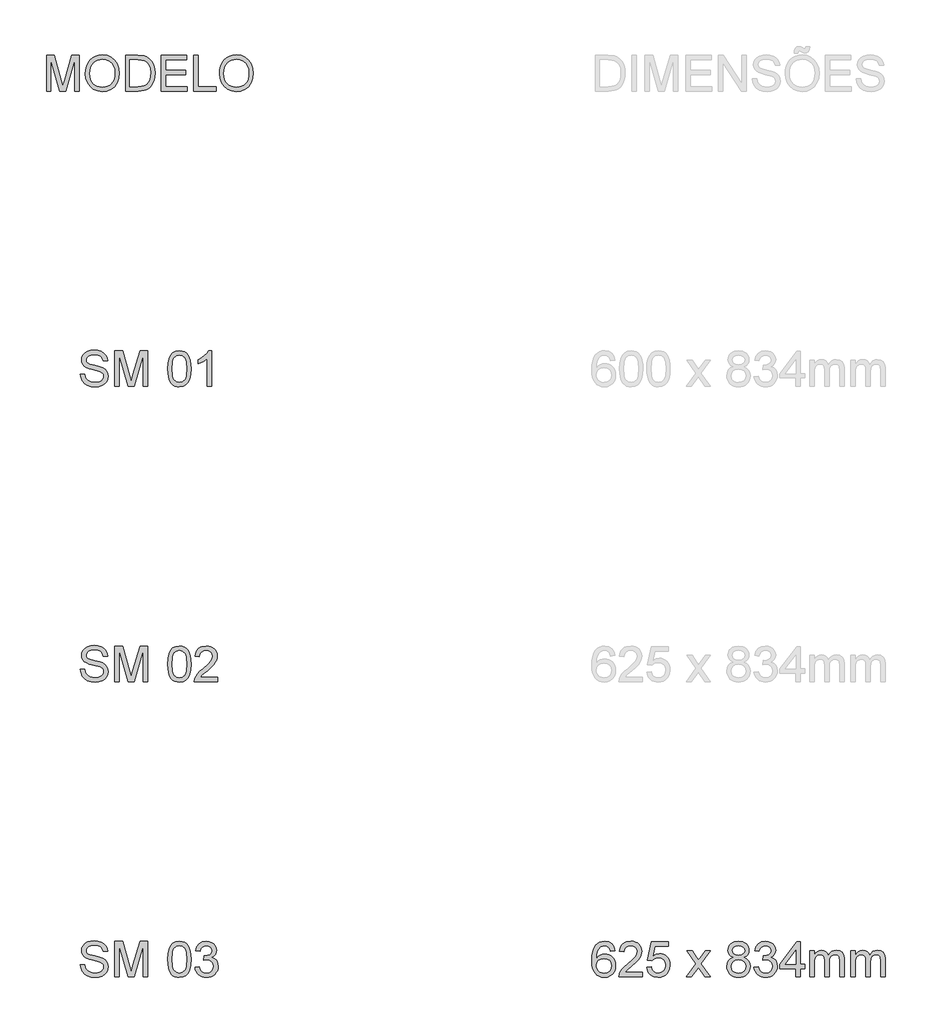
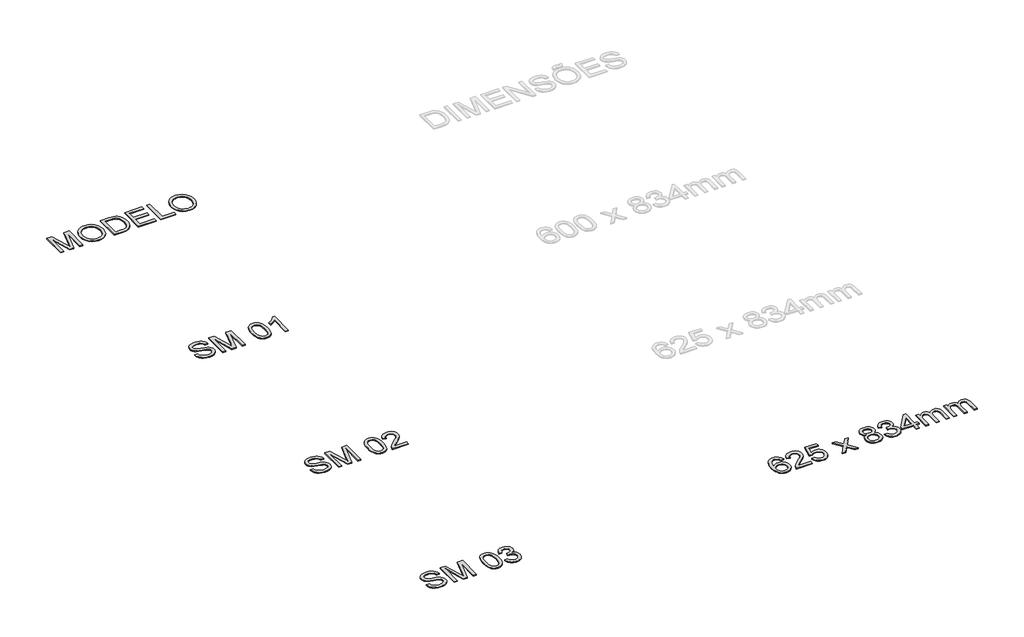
# One storey, part 63 of 67: 5 proxies.
"""IFC4 building model written with IfcOpenShell, lengths in millimetres."""

from ifc_helpers import new_model, si_unit, origin, origin_with_axes, place, context, project, spatial, polyline, outline, extrude, element, save

model = new_model("IFC4")

# Units and contexts
model_context = context("Model", 3, world=origin())
ifc_project = project(units=[si_unit("LENGTHUNIT", "METRE", prefix="MILLI")], contexts=[model_context])

# Site, building, storey
site = spatial("IfcSite", under=ifc_project)
building = spatial("IfcBuilding", under=site)
storey = spatial("IfcBuildingStorey", under=building, Name="Marelli - Linha COLAB - Planta Baixa", Elevation=0.0)

# Proxies
placement = place(None, origin())
element("IfcBuildingElementProxy", 1, Name="300mm Arial", ObjectType="300mm Arial", at=placement, inside=storey, context=model_context, shape_type="SweptSolid", body=[
    extrude(outline(polyline([(-150.5235972, 1440.7514882), (-188.1947135, 1436.0425987), (-194.2647664, 1454.7126099), (-202.4685349, 1467.4597211), (-219.5566536, 1479.2135508), (-240.2132276, 1483.1314941), (-257.7244106, 1480.8506257), (-274.205524, 1474.0080206), (-288.3597837, 1459.5962434), (-299.9204754, 1439.7582068), (-307.7287708, 1411.6980077), (-310.6258415, 1372.6197427), (-295.5150886, 1390.2504873), (-277.4060973, 1402.6757017), (-257.3105434, 1410.0425387), (-236.2401021, 1412.498151), (-218.1403079, 1410.8196894), (-201.4384653, 1405.7843046), (-186.1345743, 1397.3919966), (-172.2286349, 1385.6427654), (-160.6725417, 1371.2355867), (-152.4181895, 1354.8694365), (-147.4655781, 1336.5443146), (-145.8147077, 1316.2602211), (-148.9233105, 1289.2852738), (-158.2491191, 1264.2784951), (-173.0195812, 1243.0700981), (-192.4621447, 1227.4902956), (-215.6938927, 1217.9161667), (-241.8319084, 1214.7247904), (-264.288805, 1216.8401119), (-284.5705992, 1223.1860763), (-302.6772911, 1233.7626836), (-318.6088808, 1248.5699339), (-331.5974145, 1268.2332266), (-340.8749386, 1293.377961), (-346.441453, 1324.0041371), (-348.2969578, 1360.1117549), (-346.2368186, 1400.5925699), (-340.0564011, 1435.1412878), (-329.7557053, 1463.7579085), (-315.334731, 1486.442432), (-299.7043448, 1501.4750101), (-281.581558, 1512.2125658), (-260.9663707, 1518.6550992), (-237.8587829, 1520.8026104), (-204.8045856, 1515.4867156), (-178.335476, 1499.5390311), (-159.7942235, 1474.2103557), (-150.5235972, 1440.7514882)]), holes=[polyline([(-310.6258415, 1316.8488323), (-308.4461407, 1300.1561867), (-301.9070382, 1284.2176993), (-291.7534952, 1270.514095), (-278.7304725, 1260.5260988), (-263.0127143, 1254.4284547), (-244.7749644, 1252.3959067), (-219.9153385, 1256.6081555), (-200.3716076, 1269.2449021), (-187.7072699, 1289.1105298), (-183.485824, 1315.0094223), (-187.6520876, 1339.8690481), (-200.1508784, 1358.8241679), (-220.0257031, 1370.826318), (-246.3200687, 1374.8270347), (-271.1429064, 1370.826318), (-291.900648, 1358.8241679), (-305.9445431, 1340.3289006), (-310.6258415, 1316.8488323)])]), origin_with_axes(), (0.0, 0.0, 1.0), 10.0),
    extrude(outline(polyline([(80.2119902, 1257.1047962), (80.2119902, 1219.4336799), (-117.5613704, 1219.4336799), (-113.5146685, 1245.4061488), (-104.2256481, 1265.7040379), (-90.6324084, 1285.3949217), (-70.9691157, 1306.0055104), (-43.4699366, 1329.0625145), (-2.8189761, 1365.1701323), (21.5716001, 1391.8231829), (33.7668883, 1413.4546442), (37.8319843, 1434.4974943), (33.9968145, 1453.3606436), (22.4913051, 1469.0416137), (4.8053782, 1479.609024), (-17.5710441, 1483.1314941), (-41.0695066, 1479.6917974), (-59.3256506, 1469.3727075), (-71.1070715, 1452.9835646), (-75.1813646, 1431.3337092), (-112.8524809, 1436.0425987), (-103.7198104, 1472.4813103), (-95.1734518, 1487.0172476), (-83.9737443, 1499.0975727), (-70.3782053, 1508.5935267), (-54.6443522, 1515.376351), (-16.7617038, 1520.8026104), (3.42812, 1519.2942942), (21.3968562, 1514.7693457), (37.1445048, 1507.2277648), (50.671066, 1496.6695515), (61.5350811, 1483.8764551), (69.295092, 1469.6302249), (73.9510985, 1453.9308607), (75.5031006, 1436.7783627), (73.8292376, 1418.761342), (68.8076483, 1401.057021), (59.895707, 1383.0491973), (46.5507876, 1364.1216686), (25.2780112, 1341.5245171), (-7.4175011, 1312.5078247), (-50.7540001, 1276.2714482), (-67.7501483, 1257.1047962), (80.2119902, 1257.1047962)])), origin_with_axes(), (0.0, 0.0, 1.0), 10.0),
    extrude(outline(polyline([(117.8831065, 1299.4848021), (155.5542228, 1304.1936916), (162.4704043, 1281.578146), (174.5369337, 1265.3821411), (191.6986288, 1255.6424653), (213.9003072, 1252.3959067), (240.9028457, 1256.9116582), (261.1363554, 1270.4589127), (273.7731019, 1291.4741716), (277.9853508, 1318.3939366), (274.0398164, 1343.7410061), (262.2032132, 1363.1283872), (242.3835707, 1375.43404), (214.4889184, 1379.5359242), (196.2143803, 1377.8988494), (181.416327, 1372.9876247), (160.2631123, 1355.9914765), (122.591996, 1360.7003661), (155.5542228, 1516.0937208), (301.5297985, 1516.0937208), (301.5297985, 1478.4226045), (186.014852, 1478.4226045), (169.9016206, 1395.4284264), (196.8121885, 1411.762387), (225.0103435, 1417.2070405), (243.3561587, 1415.5193819), (260.2074534, 1410.4564059), (275.5642274, 1402.0181127), (289.4264808, 1390.2045021), (300.9020998, 1375.7375426), (309.0989705, 1359.3392027), (314.0170929, 1341.0094823), (315.6564671, 1320.7483814), (309.7519611, 1283.0772651), (302.3713285, 1266.283452), (292.038443, 1250.8508023), (276.3850641, 1235.0456721), (258.119723, 1223.7562934), (237.2424198, 1216.9826661), (213.7531544, 1214.7247904), (176.7534228, 1220.5281289), (161.074752, 1227.782302), (147.2768779, 1237.9381443), (135.7966604, 1250.4898181), (127.0709593, 1264.9314857), (117.8831065, 1299.4848021)])), origin_with_axes(), (0.0, 0.0, 1.0), 10.0),
    extrude(outline(polyline([(452.2142637, 1219.4336799), (532.7068442, 1330.6811953), (456.9231532, 1440.7514882), (502.246215, 1440.7514882), (538.8136854, 1387.7764809), (555.8834099, 1362.7605053), (570.6722661, 1383.2147442), (612.316508, 1440.7514882), (657.6395698, 1440.7514882), (578.029906, 1330.6811953), (654.6965138, 1219.4336799), (609.373452, 1219.4336799), (563.2410498, 1286.3146267), (554.7797639, 1298.5283089), (497.5373255, 1219.4336799), (452.2142637, 1219.4336799)])), origin_with_axes(), (0.0, 0.0, 1.0), 10.0),
    extrude(outline(polyline([(850.8511937, 1385.4220362), (830.6820633, 1395.35485), (816.5278035, 1408.819331), (808.1676852, 1425.5395677), (805.3809791, 1445.2396486), (806.8984923, 1460.6033204), (811.451032, 1474.6886023), (819.0385981, 1487.4954942), (829.6611907, 1499.0239963), (842.8083735, 1508.5521399), (857.9697103, 1515.3579569), (894.3348455, 1520.8026104), (930.9207099, 1515.2291982), (946.2475935, 1508.2624329), (959.5971114, 1498.5089615), (970.4128421, 1486.7551317), (978.138364, 1473.7872914), (982.7736771, 1459.6054405), (984.3187815, 1444.209579), (981.5688636, 1425.1440946), (973.3191099, 1408.7089665), (959.4775498, 1395.3272589), (939.9522129, 1385.4220362), (963.1379756, 1373.4750684), (980.0145622, 1355.8811119), (990.306061, 1333.4862955), (993.7365606, 1307.1367476), (992.0351064, 1288.3471747), (986.9307437, 1271.1211003), (978.4234725, 1255.4585243), (966.5132929, 1241.3594468), (951.8256043, 1229.7067846), (934.985806, 1221.3834545), (915.993898, 1216.3894564), (894.8498803, 1214.7247904), (873.7058626, 1216.3963542), (854.7139546, 1221.4110457), (837.8741563, 1229.7688647), (823.1864676, 1241.4698114), (811.276288, 1255.6677572), (802.7690169, 1271.5165734), (797.6646542, 1289.0162601), (795.9632, 1308.1668172), (799.5316553, 1335.5372376), (810.2370214, 1358.0516157), (827.5274752, 1374.9373993), (850.8511937, 1385.4220362)]), holes=[polyline([(843.0520954, 1444.1360026), (846.3906245, 1427.6916774), (856.4062118, 1414.5582902), (872.8045517, 1405.9498515), (895.2913387, 1403.0803719), (917.2538938, 1405.9314574), (933.4039134, 1414.4847138), (943.3367273, 1427.1766426), (946.6476652, 1442.4437454), (943.2263627, 1458.2902624), (932.962455, 1471.3960584), (916.5917062, 1480.1976352), (894.8498803, 1483.1314941), (872.9700986, 1480.2620145), (856.626941, 1471.6535758), (846.4458068, 1459.0352234), (843.0520954, 1444.1360026)]), polyline([(833.6343163, 1309.4911924), (839.9250984, 1281.1274905), (848.6347046, 1268.9597935), (862.1819591, 1259.9006994), (878.4055551, 1254.2721049), (895.1441859, 1252.3959067), (920.7855609, 1256.3414411), (940.0257893, 1268.1780443), (952.0555305, 1286.1030945), (956.0654443, 1308.31397), (951.9267718, 1330.9019245), (939.5107545, 1349.2224478), (919.8290678, 1361.3625537), (893.8933871, 1365.4092556), (868.610697, 1361.417736), (849.5636067, 1349.443177), (837.6166389, 1331.4721416), (833.6343163, 1309.4911924)])]), origin_with_axes(), (0.0, 0.0, 1.0), 10.0),
    extrude(outline(polyline([(1026.6987874, 1299.4848021), (1064.3699037, 1304.1936916), (1072.8035984, 1280.5204852), (1085.1552364, 1264.5360125), (1102.0318229, 1255.4309332), (1124.0403633, 1252.3959067), (1149.8656793, 1256.5713673), (1169.8048835, 1269.0977493), (1182.5519946, 1287.7861546), (1186.8010317, 1310.4476855), (1182.5887828, 1331.9595852), (1169.9520363, 1349.4063888), (1150.8221725, 1360.9670805), (1127.130572, 1364.8206444), (1100.7166448, 1360.7003661), (1104.9104995, 1398.3714824), (1110.9437643, 1397.930024), (1133.5133247, 1400.6339567), (1153.6916521, 1408.7457546), (1167.9286853, 1422.4677531), (1172.674363, 1442.002287), (1169.2346664, 1458.2718683), (1158.9155764, 1471.4696348), (1143.170227, 1480.2160293), (1123.4517521, 1483.1314941), (1103.696489, 1480.1884381), (1087.5464694, 1471.3592702), (1075.7558514, 1456.6439904), (1069.0787932, 1436.0425987), (1031.4076769, 1440.7514882), (1042.4993191, 1474.5782377), (1062.2361881, 1499.8333367), (1089.2387265, 1515.5602919), (1122.1273769, 1520.8026104), (1145.8097803, 1518.2182394), (1167.5608033, 1510.4651263), (1185.8997208, 1498.23305), (1199.3458077, 1482.2117891), (1207.5955614, 1463.75331), (1210.3454794, 1444.209579), (1207.7335172, 1425.9994202), (1199.8976307, 1409.4815186), (1186.9481845, 1395.4100323), (1168.9955431, 1384.5391194), (1192.576779, 1375.0109757), (1210.0511738, 1358.7873797), (1220.8669044, 1336.7512482), (1224.472148, 1309.7854979), (1222.6695262, 1290.6740283), (1217.2616609, 1273.0708748), (1208.248552, 1256.9760375), (1195.6301995, 1242.3895164), (1180.2573307, 1230.2861988), (1162.9806725, 1221.6409719), (1143.800225, 1216.4538358), (1122.7159881, 1214.7247904), (1103.6597008, 1216.2009169), (1086.2956706, 1220.6292964), (1070.6238976, 1228.0099289), (1056.6443818, 1238.3428145), (1044.9227417, 1251.0209477), (1036.0245959, 1265.4373234), (1029.9499445, 1281.5919415), (1026.6987874, 1299.4848021)])), origin_with_axes(), (0.0, 0.0, 1.0), 10.0),
    extrude(outline(polyline([(1379.8655027, 1219.4336799), (1379.8655027, 1290.067023), (1243.3077061, 1290.067023), (1243.3077061, 1327.7381393), (1389.2832818, 1516.0937208), (1417.536619, 1516.0937208), (1417.536619, 1327.7381393), (1455.2077353, 1327.7381393), (1455.2077353, 1290.067023), (1417.536619, 1290.067023), (1417.536619, 1219.4336799), (1379.8655027, 1219.4336799)]), holes=[polyline([(1379.8655027, 1327.7381393), (1379.8655027, 1444.1360026), (1289.6608375, 1327.7381393), (1379.8655027, 1327.7381393)])]), origin_with_axes(), (0.0, 0.0, 1.0), 10.0),
    extrude(outline(polyline([(1497.5877412, 1219.4336799), (1497.5877412, 1440.7514882), (1535.2588575, 1440.7514882), (1535.2588575, 1404.3311707), (1546.5896229, 1421.0606044), (1561.15775, 1434.1664005), (1578.4665978, 1442.6368835), (1598.0195259, 1445.4603778), (1618.9704055, 1442.5817012), (1635.7642186, 1433.9456713), (1648.3089946, 1420.1225054), (1656.5127631, 1401.6824203), (1670.2439586, 1420.8352767), (1685.9065345, 1434.5158884), (1703.5004909, 1442.7242554), (1723.0258278, 1445.4603778), (1751.3435444, 1440.9078381), (1772.285227, 1427.250219), (1785.2254762, 1404.1196386), (1789.5388926, 1371.1482147), (1789.5388926, 1219.4336799), (1751.8677763, 1219.4336799), (1751.8677763, 1354.961407), (1748.3728973, 1386.4153175), (1743.4616727, 1395.0881356), (1735.7177567, 1401.9031495), (1725.7573516, 1406.3177335), (1714.1966599, 1407.7892615), (1693.7884063, 1404.018471), (1677.150943, 1392.7060997), (1666.086892, 1373.0795952), (1662.398875, 1344.3664055), (1662.398875, 1219.4336799), (1624.7277587, 1219.4336799), (1624.7277587, 1359.1552617), (1622.5480579, 1380.4556292), (1616.0089554, 1395.6491556), (1604.503446, 1404.754235), (1587.4245244, 1407.7892615), (1572.9115797, 1405.7659105), (1559.5390692, 1399.6958576), (1548.5026093, 1389.7262555), (1540.9978166, 1376.0042571), (1536.6935973, 1356.9663638), (1535.2588575, 1331.0490773), (1535.2588575, 1219.4336799), (1497.5877412, 1219.4336799)])), origin_with_axes(), (0.0, 0.0, 1.0), 10.0),
    extrude(outline(polyline([(1846.045567, 1219.4336799), (1846.045567, 1440.7514882), (1883.7166833, 1440.7514882), (1883.7166833, 1404.3311707), (1895.0474488, 1421.0606044), (1909.6155758, 1434.1664005), (1926.9244237, 1442.6368835), (1946.4773517, 1445.4603778), (1967.4282313, 1442.5817012), (1984.2220444, 1433.9456713), (1996.7668204, 1420.1225054), (2004.9705889, 1401.6824203), (2018.7017844, 1420.8352767), (2034.3643603, 1434.5158884), (2051.9583168, 1442.7242554), (2071.4836537, 1445.4603778), (2099.8013702, 1440.9078381), (2120.7430528, 1427.250219), (2133.683302, 1404.1196386), (2137.9967184, 1371.1482147), (2137.9967184, 1219.4336799), (2100.3256021, 1219.4336799), (2100.3256021, 1354.961407), (2096.8307231, 1386.4153175), (2091.9194985, 1395.0881356), (2084.1755825, 1401.9031495), (2074.2151775, 1406.3177335), (2062.6544858, 1407.7892615), (2042.2462321, 1404.018471), (2025.6087689, 1392.7060997), (2014.5447179, 1373.0795952), (2010.8567009, 1344.3664055), (2010.8567009, 1219.4336799), (1973.1855846, 1219.4336799), (1973.1855846, 1359.1552617), (1971.0058837, 1380.4556292), (1964.4667813, 1395.6491556), (1952.9612719, 1404.754235), (1935.8823502, 1407.7892615), (1921.3694055, 1405.7659105), (1907.996895, 1399.6958576), (1896.9604352, 1389.7262555), (1889.4556424, 1376.0042571), (1885.1514231, 1356.9663638), (1883.7166833, 1331.0490773), (1883.7166833, 1219.4336799), (1846.045567, 1219.4336799)])), origin_with_axes(), (0.0, 0.0, 1.0), 10.0),
])
element("IfcBuildingElementProxy", 2, Name="300mm Arial", ObjectType="300mm Arial", at=placement, inside=storey, context=model_context, shape_type="SweptSolid", body=[
    extrude(outline(polyline([(-4966.8769052, 8719.4336799), (-4966.8769052, 9020.8026104), (-4902.0560977, 9020.8026104), (-4840.3990753, 8808.3875464), (-4827.9646638, 8764.0209777), (-4814.5001828, 8812.0663663), (-4753.87323, 9020.8026104), (-4689.0524225, 9020.8026104), (-4689.0524225, 8719.4336799), (-4726.7235388, 8719.4336799), (-4726.7235388, 8983.1314941), (-4802.4336534, 8719.4336799), (-4853.4956743, 8719.4336799), (-4929.2057889, 8983.1314941), (-4929.2057889, 8719.4336799), (-4966.8769052, 8719.4336799)])), origin_with_axes(), (0.0, 0.0, 1.0), 10.0),
    extrude(outline(polyline([(-4637.2546375, 8866.1450196), (-4634.7438429, 8901.4938808), (-4627.2114591, 8932.786843), (-4614.657486, 8960.0239063), (-4597.0819237, 8983.2050705), (-4575.5378343, 9001.7141334), (-4551.0782802, 9014.9348926), (-4523.7032612, 9022.8673481), (-4493.4127774, 9025.5114999), (-4453.883857, 9020.545093), (-4418.4384268, 9005.6458722), (-4389.0078672, 8981.8623012), (-4367.5235587, 8950.2428437), (-4354.3901714, 8912.31421), (-4350.0123757, 8869.6031104), (-4354.6200977, 8826.3217936), (-4368.4432637, 8787.859731), (-4390.7185185, 8756.1850913), (-4420.682507, 8733.266043), (-4455.8244346, 8719.3601035), (-4493.6335066, 8714.7247904), (-4533.7694323, 8719.8475472), (-4569.4171976, 8735.2158175), (-4598.7741808, 8759.4408469), (-4620.0377602, 8791.1338808), (-4632.9504182, 8827.6001836), (-4637.2546375, 8866.1450196)]), holes=[polyline([(-4599.5835212, 8865.7771376), (-4597.7004253, 8840.8025487), (-4592.0511374, 8818.6330599), (-4582.6356576, 8799.2686714), (-4569.4539858, 8782.7093831), (-4553.4304257, 8769.4472372), (-4535.4892806, 8759.9742758), (-4515.6305507, 8754.290499), (-4493.8542358, 8752.3959067), (-4471.7054404, 8754.3088931), (-4451.6121857, 8760.0478522), (-4433.5744716, 8769.6127841), (-4417.5922982, 8783.0036887), (-4404.5071955, 8799.9124649), (-4395.1606936, 8820.0310115), (-4389.5527924, 8843.3593285), (-4387.683492, 8869.897416), (-4390.8840654, 8903.2459188), (-4400.4857854, 8932.0694731), (-4416.2403319, 8955.641512), (-4437.8993843, 8973.2354684), (-4464.0282031, 8984.1891548), (-4493.1920482, 8987.8403836), (-4514.2119057, 8986.0814478), (-4533.71425, 8980.8046405), (-4551.699081, 8972.0099615), (-4568.1663988, 8959.697411), (-4581.9113899, 8943.2737792), (-4591.7292406, 8922.1458563), (-4597.6199511, 8896.3136425), (-4599.5835212, 8865.7771376)])]), origin_with_axes(), (0.0, 0.0, 1.0), 10.0),
    extrude(outline(polyline([(-4298.2145908, 8719.4336799), (-4298.2145908, 9020.8026104), (-4194.2511389, 9020.8026104), (-4140.4667912, 9016.4616028), (-4116.444097, 9008.0922874), (-4096.173799, 8994.9037179), (-4075.333284, 8971.9478814), (-4060.4892455, 8943.4002386), (-4051.6048953, 8909.8126124), (-4048.6434453, 8871.7368259), (-4050.6484021, 8839.3908015), (-4056.6632727, 8810.9259321), (-4065.8235344, 8786.6917057), (-4077.2646645, 8767.0376101), (-4090.4348399, 8751.522187), (-4104.7822377, 8739.7039779), (-4121.254154, 8730.9391893), (-4140.797885, 8724.5840279), (-4189.2479438, 8719.4336799), (-4298.2145908, 8719.4336799)]), holes=[polyline([(-4260.5434745, 8757.1047962), (-4193.8832569, 8757.1047962), (-4166.3105014, 8758.4659596), (-4145.39641, 8762.5494498), (-4129.6142724, 8769.1161434), (-4117.4373783, 8777.9269172), (-4104.3499764, 8794.2332866), (-4094.5183301, 8815.3405161), (-4088.3655037, 8841.3405761), (-4086.3145616, 8872.3254371), (-4090.3336724, 8913.3810678), (-4102.3910047, 8943.6945442), (-4120.2056904, 8964.5166651), (-4141.4968608, 8977.0982294), (-4163.1651104, 8981.6231779), (-4194.9133265, 8983.1314941), (-4260.5434745, 8983.1314941), (-4260.5434745, 8757.1047962)])]), origin_with_axes(), (0.0, 0.0, 1.0), 10.0),
    extrude(outline(polyline([(-3996.8456603, 8719.4336799), (-3996.8456603, 9020.8026104), (-3780.2367416, 9020.8026104), (-3780.2367416, 8983.1314941), (-3959.174544, 8983.1314941), (-3959.174544, 8893.6625928), (-3789.6545206, 8893.6625928), (-3789.6545206, 8855.9914765), (-3959.174544, 8855.9914765), (-3959.174544, 8757.1047962), (-3775.527852, 8757.1047962), (-3775.527852, 8719.4336799), (-3996.8456603, 8719.4336799)])), origin_with_axes(), (0.0, 0.0, 1.0), 10.0),
    extrude(outline(polyline([(-3719.0211776, 8719.4336799), (-3719.0211776, 9020.8026104), (-3681.3500613, 9020.8026104), (-3681.3500613, 8757.1047962), (-3530.665596, 8757.1047962), (-3530.665596, 8719.4336799), (-3719.0211776, 8719.4336799)])), origin_with_axes(), (0.0, 0.0, 1.0), 10.0),
    extrude(outline(polyline([(-3502.4122588, 8866.1450196), (-3499.9014642, 8901.4938808), (-3492.3690803, 8932.786843), (-3479.8151073, 8960.0239063), (-3462.2395449, 8983.2050705), (-3440.6954556, 9001.7141334), (-3416.2359014, 9014.9348926), (-3388.8608825, 9022.8673481), (-3358.5703987, 9025.5114999), (-3319.0414783, 9020.545093), (-3283.5960481, 9005.6458722), (-3254.1654885, 8981.8623012), (-3232.6811799, 8950.2428437), (-3219.5477927, 8912.31421), (-3215.169997, 8869.6031104), (-3219.777719, 8826.3217936), (-3233.6008849, 8787.859731), (-3255.8761397, 8756.1850913), (-3285.8401283, 8733.266043), (-3320.9820558, 8719.3601035), (-3358.7911279, 8714.7247904), (-3398.9270536, 8719.8475472), (-3434.5748189, 8735.2158175), (-3463.9318021, 8759.4408469), (-3485.1953814, 8791.1338808), (-3498.1080395, 8827.6001836), (-3502.4122588, 8866.1450196)]), holes=[polyline([(-3464.7411425, 8865.7771376), (-3462.8580465, 8840.8025487), (-3457.2087587, 8818.6330599), (-3447.7932788, 8799.2686714), (-3434.6116071, 8782.7093831), (-3418.5880469, 8769.4472372), (-3400.6469019, 8759.9742758), (-3380.7881719, 8754.290499), (-3359.0118571, 8752.3959067), (-3336.8630617, 8754.3088931), (-3316.769807, 8760.0478522), (-3298.7320929, 8769.6127841), (-3282.7499195, 8783.0036887), (-3269.6648168, 8799.9124649), (-3260.3183148, 8820.0310115), (-3254.7104137, 8843.3593285), (-3252.8411133, 8869.897416), (-3256.0416866, 8903.2459188), (-3265.6434067, 8932.0694731), (-3281.3979532, 8955.641512), (-3303.0570056, 8973.2354684), (-3329.1858243, 8984.1891548), (-3358.3496695, 8987.8403836), (-3379.369527, 8986.0814478), (-3398.8718713, 8980.8046405), (-3416.8567023, 8972.0099615), (-3433.3240201, 8959.697411), (-3447.0690112, 8943.2737792), (-3456.8868619, 8922.1458563), (-3462.7775724, 8896.3136425), (-3464.7411425, 8865.7771376)])]), origin_with_axes(), (0.0, 0.0, 1.0), 10.0),
])
element("IfcBuildingElementProxy", 3, Name="300mm Arial", ObjectType="300mm Arial", at=placement, inside=storey, context=model_context, shape_type="SweptSolid", body=[
    extrude(outline(polyline([(-4679.6346434, 6323.0292498), (-4641.9635271, 6323.0292498), (-4637.6409136, 6302.1243554), (-4629.8234212, 6285.3213453), (-4617.6281331, 6271.9856229), (-4600.1721324, 6261.482592), (-4578.8349767, 6254.667578), (-4554.9962234, 6252.3959067), (-4534.0085556, 6254.115755), (-4515.6328499, 6259.2753), (-4500.7428262, 6267.4422803), (-4490.2122041, 6278.1844346), (-4483.9490131, 6290.5176784), (-4481.8612828, 6303.4579276), (-4483.4247813, 6316.067083), (-4488.1152767, 6326.9655871), (-4497.6434204, 6336.2638046), (-4513.7198636, 6344.0720999), (-4568.571069, 6358.4562859), (-4604.5775193, 6367.9752325), (-4627.6161293, 6377.0343267), (-4646.368914, 6389.7078614), (-4659.658651, 6405.0669347), (-4667.577311, 6422.7804528), (-4670.2168643, 6442.5173218), (-4666.9519116, 6464.5810445), (-4657.1570535, 6485.154845), (-4641.0898073, 6502.5924516), (-4619.0076906, 6515.2475923), (-4592.5017928, 6522.945523), (-4563.1632037, 6525.5114999), (-4531.3781993, 6522.8259614), (-4503.5663205, 6514.7693457), (-4480.7208486, 6501.5071997), (-4463.835065, 6483.2050705), (-4453.148093, 6461.0033921), (-4448.899056, 6436.0425987), (-4486.5701723, 6436.0425987), (-4493.4863538, 6458.5201886), (-4507.907328, 6474.7437846), (-4530.4401002, 6484.5662339), (-4561.6916757, 6487.8403836), (-4593.6790152, 6484.6030221), (-4615.6231762, 6474.8909374), (-4628.3151051, 6460.5987219), (-4632.545748, 6443.6209678), (-4629.5475097, 6429.1448113), (-4620.552795, 6417.5013461), (-4599.2892156, 6407.0902857), (-4559.0429254, 6396.458496), (-4517.5090481, 6386.3601352), (-4492.3827078, 6377.5493615), (-4470.9075964, 6363.8825453), (-4455.9256021, 6347.0151559), (-4447.1240254, 6327.131134), (-4444.1901665, 6304.4144208), (-4447.5654838, 6281.1918699), (-4457.6914357, 6259.3488764), (-4474.154155, 6240.5501065), (-4496.5397744, 6226.460226), (-4523.4595394, 6217.6586493), (-4553.5246954, 6214.7247904), (-4590.4324566, 6217.8885756), (-4620.8103123, 6227.379931), (-4645.0077506, 6243.235645), (-4663.3742592, 6265.4925057), (-4675.1648771, 6292.6054088), (-4679.6346434, 6323.0292498)])), origin_with_axes(), (0.0, 0.0, 1.0), 10.0),
    extrude(outline(polyline([(-4387.683492, 6219.4336799), (-4387.683492, 6520.8026104), (-4322.8626845, 6520.8026104), (-4261.2056621, 6308.3875464), (-4248.7712506, 6264.0209777), (-4235.3067696, 6312.0663663), (-4174.6798168, 6520.8026104), (-4109.8590092, 6520.8026104), (-4109.8590092, 6219.4336799), (-4147.5301256, 6219.4336799), (-4147.5301256, 6483.1314941), (-4223.2402402, 6219.4336799), (-4274.3022611, 6219.4336799), (-4350.0123757, 6483.1314941), (-4350.0123757, 6219.4336799), (-4387.683492, 6219.4336799)])), origin_with_axes(), (0.0, 0.0, 1.0), 10.0),
    extrude(outline(polyline([(-3940.3389859, 6367.690124), (-3937.5706739, 6415.9286506), (-3929.2657378, 6454.3999103), (-3915.5069512, 6483.6925141), (-3896.3770874, 6504.3950734), (-3871.7381908, 6516.7007261), (-3841.4523056, 6520.8026104), (-3818.2389517, 6518.3745892), (-3797.4536189, 6511.0905257), (-3780.0711947, 6499.2355284), (-3767.0665661, 6483.0947059), (-3757.2441169, 6462.8060138), (-3749.4082304, 6438.5074081), (-3744.2762765, 6407.6513057), (-3742.5656253, 6367.690124), (-3745.3063461, 6319.7275089), (-3753.5285087, 6281.3482197), (-3767.2045219, 6252.0280247), (-3786.3067945, 6231.242692), (-3811.0008734, 6218.8542658), (-3841.4523056, 6214.7247904), (-3862.2008501, 6216.5182151), (-3880.5949499, 6221.8984893), (-3896.6346048, 6230.8656129), (-3910.3198151, 6243.419586), (-3923.4532023, 6266.1133066), (-3932.8341932, 6294.3896364), (-3938.4627877, 6328.2485756), (-3940.3389859, 6367.690124)]), holes=[polyline([(-3902.6678696, 6367.7637004), (-3898.2532856, 6308.507108), (-3892.7350557, 6288.2391093), (-3885.0095338, 6274.211309), (-3865.2910589, 6257.8497573), (-3841.4523056, 6252.3959067), (-3817.6135523, 6257.8681514), (-3797.8950773, 6274.2848854), (-3790.1695554, 6288.3356784), (-3784.6513255, 6308.5990785), (-3780.2367416, 6367.7637004), (-3784.5041727, 6425.6867205), (-3789.8384616, 6445.8880406), (-3797.3064661, 6460.249234), (-3816.9881529, 6477.410929), (-3841.893764, 6483.1314941), (-3865.4749999, 6478.0915107), (-3884.4209226, 6462.9715607), (-3892.4039619, 6447.3365759), (-3898.1061328, 6426.2569376), (-3902.6678696, 6367.7637004)])]), origin_with_axes(), (0.0, 0.0, 1.0), 10.0),
    extrude(outline(polyline([(-3568.3367123, 6219.4336799), (-3606.0078287, 6219.4336799), (-3606.0078287, 6454.2895457), (-3641.6923822, 6428.8688998), (-3681.3500613, 6409.8494006), (-3681.3500613, 6445.4603778), (-3651.7631518, 6461.5552151), (-3626.1309738, 6480.7034729), (-3605.9250552, 6501.0657413), (-3592.616924, 6520.8026104), (-3568.3367123, 6520.8026104), (-3568.3367123, 6219.4336799)])), origin_with_axes(), (0.0, 0.0, 1.0), 10.0),
])
element("IfcBuildingElementProxy", 4, Name="300mm Arial", ObjectType="300mm Arial", at=placement, inside=storey, context=model_context, shape_type="SweptSolid", body=[
    extrude(outline(polyline([(-4679.6346434, 3823.0292498), (-4641.9635271, 3823.0292498), (-4637.6409136, 3802.1243554), (-4629.8234212, 3785.3213453), (-4617.6281331, 3771.9856229), (-4600.1721324, 3761.482592), (-4578.8349767, 3754.667578), (-4554.9962234, 3752.3959067), (-4534.0085556, 3754.115755), (-4515.6328499, 3759.2753), (-4500.7428262, 3767.4422803), (-4490.2122041, 3778.1844346), (-4483.9490131, 3790.5176784), (-4481.8612828, 3803.4579276), (-4483.4247813, 3816.067083), (-4488.1152767, 3826.9655871), (-4497.6434204, 3836.2638046), (-4513.7198636, 3844.0720999), (-4568.571069, 3858.4562859), (-4604.5775193, 3867.9752325), (-4627.6161293, 3877.0343267), (-4646.368914, 3889.7078614), (-4659.658651, 3905.0669347), (-4667.577311, 3922.7804528), (-4670.2168643, 3942.5173218), (-4666.9519116, 3964.5810445), (-4657.1570535, 3985.154845), (-4641.0898073, 4002.5924516), (-4619.0076906, 4015.2475923), (-4592.5017928, 4022.945523), (-4563.1632037, 4025.5114999), (-4531.3781993, 4022.8259614), (-4503.5663205, 4014.7693457), (-4480.7208486, 4001.5071997), (-4463.835065, 3983.2050705), (-4453.148093, 3961.0033921), (-4448.899056, 3936.0425987), (-4486.5701723, 3936.0425987), (-4493.4863538, 3958.5201886), (-4507.907328, 3974.7437846), (-4530.4401002, 3984.5662339), (-4561.6916757, 3987.8403836), (-4593.6790152, 3984.6030221), (-4615.6231762, 3974.8909374), (-4628.3151051, 3960.5987219), (-4632.545748, 3943.6209678), (-4629.5475097, 3929.1448113), (-4620.552795, 3917.5013461), (-4599.2892156, 3907.0902857), (-4559.0429254, 3896.458496), (-4517.5090481, 3886.3601352), (-4492.3827078, 3877.5493615), (-4470.9075964, 3863.8825453), (-4455.9256021, 3847.0151559), (-4447.1240254, 3827.131134), (-4444.1901665, 3804.4144208), (-4447.5654838, 3781.1918699), (-4457.6914357, 3759.3488764), (-4474.154155, 3740.5501065), (-4496.5397744, 3726.460226), (-4523.4595394, 3717.6586493), (-4553.5246954, 3714.7247904), (-4590.4324566, 3717.8885756), (-4620.8103123, 3727.379931), (-4645.0077506, 3743.235645), (-4663.3742592, 3765.4925057), (-4675.1648771, 3792.6054088), (-4679.6346434, 3823.0292498)])), origin_with_axes(), (0.0, 0.0, 1.0), 10.0),
    extrude(outline(polyline([(-4387.683492, 3719.4336799), (-4387.683492, 4020.8026104), (-4322.8626845, 4020.8026104), (-4261.2056621, 3808.3875464), (-4248.7712506, 3764.0209777), (-4235.3067696, 3812.0663663), (-4174.6798168, 4020.8026104), (-4109.8590092, 4020.8026104), (-4109.8590092, 3719.4336799), (-4147.5301256, 3719.4336799), (-4147.5301256, 3983.1314941), (-4223.2402402, 3719.4336799), (-4274.3022611, 3719.4336799), (-4350.0123757, 3983.1314941), (-4350.0123757, 3719.4336799), (-4387.683492, 3719.4336799)])), origin_with_axes(), (0.0, 0.0, 1.0), 10.0),
    extrude(outline(polyline([(-3940.3389859, 3867.690124), (-3937.5706739, 3915.9286506), (-3929.2657378, 3954.3999103), (-3915.5069512, 3983.6925141), (-3896.3770874, 4004.3950734), (-3871.7381908, 4016.7007261), (-3841.4523056, 4020.8026104), (-3818.2389517, 4018.3745892), (-3797.4536189, 4011.0905257), (-3780.0711947, 3999.2355284), (-3767.0665661, 3983.0947059), (-3757.2441169, 3962.8060138), (-3749.4082304, 3938.5074081), (-3744.2762765, 3907.6513057), (-3742.5656253, 3867.690124), (-3745.3063461, 3819.7275089), (-3753.5285087, 3781.3482197), (-3767.2045219, 3752.0280247), (-3786.3067945, 3731.242692), (-3811.0008734, 3718.8542658), (-3841.4523056, 3714.7247904), (-3862.2008501, 3716.5182151), (-3880.5949499, 3721.8984893), (-3896.6346048, 3730.8656129), (-3910.3198151, 3743.419586), (-3923.4532023, 3766.1133066), (-3932.8341932, 3794.3896364), (-3938.4627877, 3828.2485756), (-3940.3389859, 3867.690124)]), holes=[polyline([(-3902.6678696, 3867.7637004), (-3898.2532856, 3808.507108), (-3892.7350557, 3788.2391093), (-3885.0095338, 3774.211309), (-3865.2910589, 3757.8497573), (-3841.4523056, 3752.3959067), (-3817.6135523, 3757.8681514), (-3797.8950773, 3774.2848854), (-3790.1695554, 3788.3356784), (-3784.6513255, 3808.5990785), (-3780.2367416, 3867.7637004), (-3784.5041727, 3925.6867205), (-3789.8384616, 3945.8880406), (-3797.3064661, 3960.249234), (-3816.9881529, 3977.410929), (-3841.893764, 3983.1314941), (-3865.4749999, 3978.0915107), (-3884.4209226, 3962.9715607), (-3892.4039619, 3947.3365759), (-3898.1061328, 3926.2569376), (-3902.6678696, 3867.7637004)])]), origin_with_axes(), (0.0, 0.0, 1.0), 10.0),
    extrude(outline(polyline([(-3516.5389274, 3757.1047962), (-3516.5389274, 3719.4336799), (-3714.312288, 3719.4336799), (-3710.2655861, 3745.4061488), (-3700.9765657, 3765.7040379), (-3687.383326, 3785.3949217), (-3667.7200333, 3806.0055104), (-3640.2208542, 3829.0625145), (-3599.5698937, 3865.1701323), (-3575.1793175, 3891.8231829), (-3562.9840293, 3913.4546442), (-3558.9189333, 3934.4974943), (-3562.7541031, 3953.3606436), (-3574.2596125, 3969.0416137), (-3591.9455394, 3979.609024), (-3614.3219617, 3983.1314941), (-3637.8204242, 3979.6917974), (-3656.0765682, 3969.3727075), (-3667.8579891, 3952.9835646), (-3671.9322822, 3931.3337092), (-3709.6033985, 3936.0425987), (-3700.470728, 3972.4813103), (-3691.9243694, 3987.0172476), (-3680.7246619, 3999.0975727), (-3667.1291229, 4008.5935267), (-3651.3952698, 4015.376351), (-3613.5126214, 4020.8026104), (-3593.3227976, 4019.2942942), (-3575.3540614, 4014.7693457), (-3559.6064128, 4007.2277648), (-3546.0798516, 3996.6695515), (-3535.2158365, 3983.8764551), (-3527.4558256, 3969.6302249), (-3522.7998191, 3953.9308607), (-3521.247817, 3936.7783627), (-3522.92168, 3918.761342), (-3527.9432693, 3901.057021), (-3536.8552106, 3883.0491973), (-3550.20013, 3864.1216686), (-3571.4729064, 3841.5245171), (-3604.1684187, 3812.5078247), (-3647.5049177, 3776.2714482), (-3664.5010659, 3757.1047962), (-3516.5389274, 3757.1047962)])), origin_with_axes(), (0.0, 0.0, 1.0), 10.0),
])
element("IfcBuildingElementProxy", 5, Name="300mm Arial", ObjectType="300mm Arial", at=placement, inside=storey, context=model_context, shape_type="SweptSolid", body=[
    extrude(outline(polyline([(-4679.6346434, 1323.0292498), (-4641.9635271, 1323.0292498), (-4637.6409136, 1302.1243554), (-4629.8234212, 1285.3213453), (-4617.6281331, 1271.9856229), (-4600.1721324, 1261.482592), (-4578.8349767, 1254.667578), (-4554.9962234, 1252.3959067), (-4534.0085556, 1254.115755), (-4515.6328499, 1259.2753), (-4500.7428262, 1267.4422803), (-4490.2122041, 1278.1844346), (-4483.9490131, 1290.5176784), (-4481.8612828, 1303.4579276), (-4483.4247813, 1316.067083), (-4488.1152767, 1326.9655871), (-4497.6434204, 1336.2638046), (-4513.7198636, 1344.0720999), (-4568.571069, 1358.4562859), (-4604.5775193, 1367.9752325), (-4627.6161293, 1377.0343267), (-4646.368914, 1389.7078614), (-4659.658651, 1405.0669347), (-4667.577311, 1422.7804528), (-4670.2168643, 1442.5173218), (-4666.9519116, 1464.5810445), (-4657.1570535, 1485.154845), (-4641.0898073, 1502.5924516), (-4619.0076906, 1515.2475923), (-4592.5017928, 1522.945523), (-4563.1632037, 1525.5114999), (-4531.3781993, 1522.8259614), (-4503.5663205, 1514.7693457), (-4480.7208486, 1501.5071997), (-4463.835065, 1483.2050705), (-4453.148093, 1461.0033921), (-4448.899056, 1436.0425987), (-4486.5701723, 1436.0425987), (-4493.4863538, 1458.5201886), (-4507.907328, 1474.7437846), (-4530.4401002, 1484.5662339), (-4561.6916757, 1487.8403836), (-4593.6790152, 1484.6030221), (-4615.6231762, 1474.8909374), (-4628.3151051, 1460.5987219), (-4632.545748, 1443.6209678), (-4629.5475097, 1429.1448113), (-4620.552795, 1417.5013461), (-4599.2892156, 1407.0902857), (-4559.0429254, 1396.458496), (-4517.5090481, 1386.3601352), (-4492.3827078, 1377.5493615), (-4470.9075964, 1363.8825453), (-4455.9256021, 1347.0151559), (-4447.1240254, 1327.131134), (-4444.1901665, 1304.4144208), (-4447.5654838, 1281.1918699), (-4457.6914357, 1259.3488764), (-4474.154155, 1240.5501065), (-4496.5397744, 1226.460226), (-4523.4595394, 1217.6586493), (-4553.5246954, 1214.7247904), (-4590.4324566, 1217.8885756), (-4620.8103123, 1227.379931), (-4645.0077506, 1243.235645), (-4663.3742592, 1265.4925057), (-4675.1648771, 1292.6054088), (-4679.6346434, 1323.0292498)])), origin_with_axes(), (0.0, 0.0, 1.0), 10.0),
    extrude(outline(polyline([(-4387.683492, 1219.4336799), (-4387.683492, 1520.8026104), (-4322.8626845, 1520.8026104), (-4261.2056621, 1308.3875464), (-4248.7712506, 1264.0209777), (-4235.3067696, 1312.0663663), (-4174.6798168, 1520.8026104), (-4109.8590092, 1520.8026104), (-4109.8590092, 1219.4336799), (-4147.5301256, 1219.4336799), (-4147.5301256, 1483.1314941), (-4223.2402402, 1219.4336799), (-4274.3022611, 1219.4336799), (-4350.0123757, 1483.1314941), (-4350.0123757, 1219.4336799), (-4387.683492, 1219.4336799)])), origin_with_axes(), (0.0, 0.0, 1.0), 10.0),
    extrude(outline(polyline([(-3940.3389859, 1367.690124), (-3937.5706739, 1415.9286506), (-3929.2657378, 1454.3999103), (-3915.5069512, 1483.6925141), (-3896.3770874, 1504.3950734), (-3871.7381908, 1516.7007261), (-3841.4523056, 1520.8026104), (-3818.2389517, 1518.3745892), (-3797.4536189, 1511.0905257), (-3780.0711947, 1499.2355284), (-3767.0665661, 1483.0947059), (-3757.2441169, 1462.8060138), (-3749.4082304, 1438.5074081), (-3744.2762765, 1407.6513057), (-3742.5656253, 1367.690124), (-3745.3063461, 1319.7275089), (-3753.5285087, 1281.3482197), (-3767.2045219, 1252.0280247), (-3786.3067945, 1231.242692), (-3811.0008734, 1218.8542658), (-3841.4523056, 1214.7247904), (-3862.2008501, 1216.5182151), (-3880.5949499, 1221.8984893), (-3896.6346048, 1230.8656129), (-3910.3198151, 1243.419586), (-3923.4532023, 1266.1133066), (-3932.8341932, 1294.3896364), (-3938.4627877, 1328.2485756), (-3940.3389859, 1367.690124)]), holes=[polyline([(-3902.6678696, 1367.7637004), (-3898.2532856, 1308.507108), (-3892.7350557, 1288.2391093), (-3885.0095338, 1274.211309), (-3865.2910589, 1257.8497573), (-3841.4523056, 1252.3959067), (-3817.6135523, 1257.8681514), (-3797.8950773, 1274.2848854), (-3790.1695554, 1288.3356784), (-3784.6513255, 1308.5990785), (-3780.2367416, 1367.7637004), (-3784.5041727, 1425.6867205), (-3789.8384616, 1445.8880406), (-3797.3064661, 1460.249234), (-3816.9881529, 1477.410929), (-3841.893764, 1483.1314941), (-3865.4749999, 1478.0915107), (-3884.4209226, 1462.9715607), (-3892.4039619, 1447.3365759), (-3898.1061328, 1426.2569376), (-3902.6678696, 1367.7637004)])]), origin_with_axes(), (0.0, 0.0, 1.0), 10.0),
    extrude(outline(polyline([(-3709.6033985, 1299.4848021), (-3671.9322822, 1304.1936916), (-3663.4985875, 1280.5204852), (-3651.1469495, 1264.5360125), (-3634.2703629, 1255.4309332), (-3612.2618226, 1252.3959067), (-3586.4365065, 1256.5713673), (-3566.4973024, 1269.0977493), (-3553.7501912, 1287.7861546), (-3549.5011542, 1310.4476855), (-3553.713403, 1331.9595852), (-3566.3501496, 1349.4063888), (-3585.4800133, 1360.9670805), (-3609.1716138, 1364.8206444), (-3635.5855411, 1360.7003661), (-3631.3916863, 1398.3714824), (-3625.3584216, 1397.930024), (-3602.7888612, 1400.6339567), (-3582.6105338, 1408.7457546), (-3568.3735005, 1422.4677531), (-3563.6278228, 1442.002287), (-3567.0675195, 1458.2718683), (-3577.3866094, 1471.4696348), (-3593.1319588, 1480.2160293), (-3612.8504338, 1483.1314941), (-3632.6056969, 1480.1884381), (-3648.7557165, 1471.3592702), (-3660.5463344, 1456.6439904), (-3667.2233927, 1436.0425987), (-3704.894509, 1440.7514882), (-3693.8028668, 1474.5782377), (-3674.0659978, 1499.8333367), (-3647.0634593, 1515.5602919), (-3614.1748089, 1520.8026104), (-3590.4924055, 1518.2182394), (-3568.7413825, 1510.4651263), (-3550.4024651, 1498.23305), (-3536.9563782, 1482.2117891), (-3528.7066244, 1463.75331), (-3525.9567065, 1444.209579), (-3528.5686687, 1425.9994202), (-3536.4045552, 1409.4815186), (-3549.3540014, 1395.4100323), (-3567.3066428, 1384.5391194), (-3543.7254069, 1375.0109757), (-3526.2510121, 1358.7873797), (-3515.4352814, 1336.7512482), (-3511.8300379, 1309.7854979), (-3513.6326597, 1290.6740283), (-3519.040525, 1273.0708748), (-3528.0536339, 1256.9760375), (-3540.6719863, 1242.3895164), (-3556.0448552, 1230.2861988), (-3573.3215134, 1221.6409719), (-3592.5019609, 1216.4538358), (-3613.5861978, 1214.7247904), (-3632.6424851, 1216.2009169), (-3650.0065153, 1220.6292964), (-3665.6782883, 1228.0099289), (-3679.6578041, 1238.3428145), (-3691.3794442, 1251.0209477), (-3700.2775899, 1265.4373234), (-3706.3522414, 1281.5919415), (-3709.6033985, 1299.4848021)])), origin_with_axes(), (0.0, 0.0, 1.0), 10.0),
])

save(model, "model.ifc")
